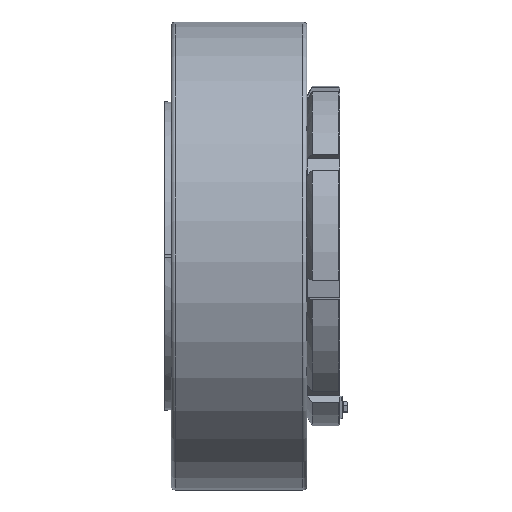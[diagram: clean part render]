
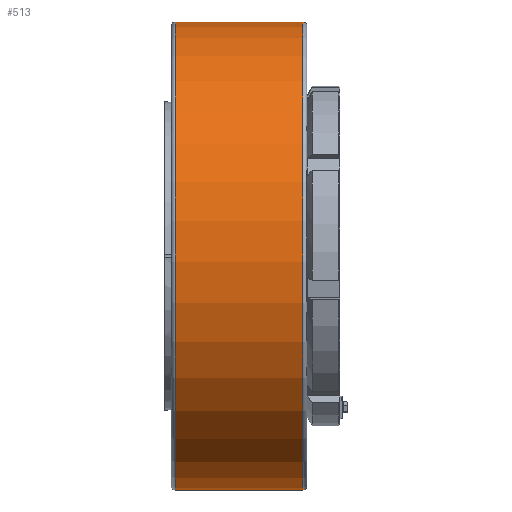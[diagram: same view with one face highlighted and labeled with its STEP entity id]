
A CAD part, front view. The second image highlights one B-rep face of the part: STEP entity #513.
In plain terms, the highlighted cylindrical face has radius 710 mm (diameter 1420 mm), a full revolution.
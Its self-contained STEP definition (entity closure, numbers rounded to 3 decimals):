
#513 = ADVANCED_FACE( '', ( #1149, #1150 ), #1151, .T. );
#1149 = FACE_OUTER_BOUND( '', #1909, .T. );
#1150 = FACE_OUTER_BOUND( '', #1910, .T. );
#1151 = CYLINDRICAL_SURFACE( '', #1911, 710. );
#1909 = EDGE_LOOP( '', ( #3976 ) );
#1910 = EDGE_LOOP( '', ( #3977 ) );
#1911 = AXIS2_PLACEMENT_3D( '', #3978, #3979, #3980 );
#3976 = ORIENTED_EDGE( '', *, *, #5409, .T. );
#3977 = ORIENTED_EDGE( '', *, *, #5423, .F. );
#3978 = CARTESIAN_POINT( '', ( 0., 0., 0. ) );
#3979 = DIRECTION( '', ( -1., 0., 0. ) );
#3980 = DIRECTION( '', ( 0., 0., -1. ) );
#5409 = EDGE_CURVE( '', #6627, #6627, #6628, .T. );
#5423 = EDGE_CURVE( '', #6655, #6655, #6656, .T. );
#6627 = VERTEX_POINT( '', #8622 );
#6628 = CIRCLE( '', #8623, 710. );
#6655 = VERTEX_POINT( '', #8650 );
#6656 = CIRCLE( '', #8651, 710. );
#8622 = CARTESIAN_POINT( '', ( -520., 0., -710. ) );
#8623 = AXIS2_PLACEMENT_3D( '', #10172, #10173, #10174 );
#8650 = CARTESIAN_POINT( '', ( -132., 0., -710. ) );
#8651 = AXIS2_PLACEMENT_3D( '', #10214, #10215, #10216 );
#10172 = CARTESIAN_POINT( '', ( -520., 0., 0. ) );
#10173 = DIRECTION( '', ( 1., 0., 0. ) );
#10174 = DIRECTION( '', ( 0., 0., -1. ) );
#10214 = CARTESIAN_POINT( '', ( -132., 0., 0. ) );
#10215 = DIRECTION( '', ( 1., 0., 0. ) );
#10216 = DIRECTION( '', ( 0., 0., -1. ) );
